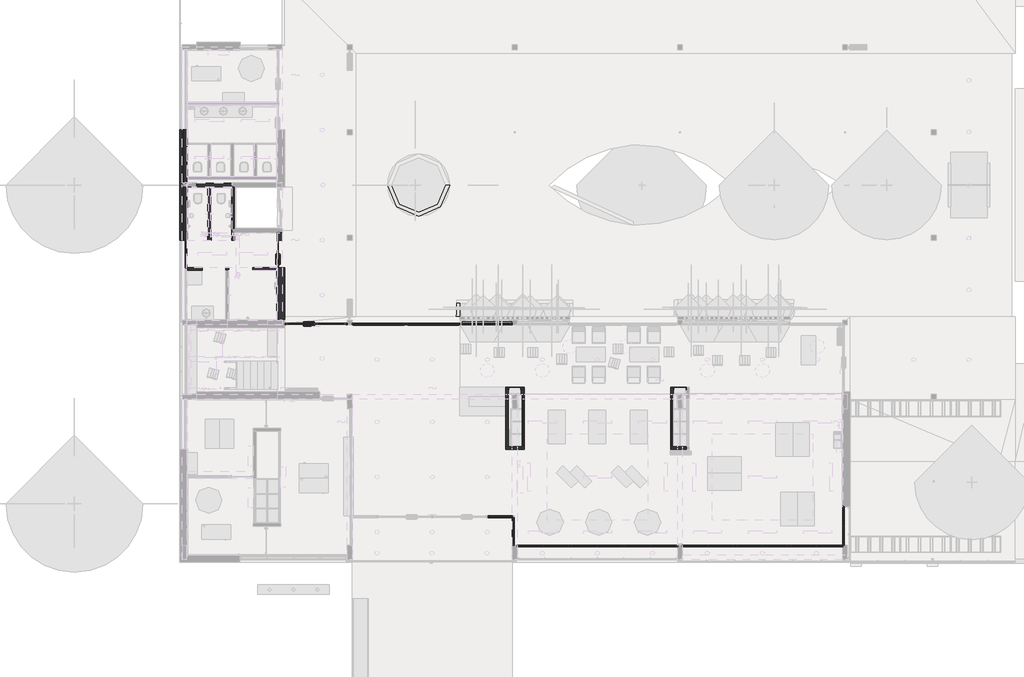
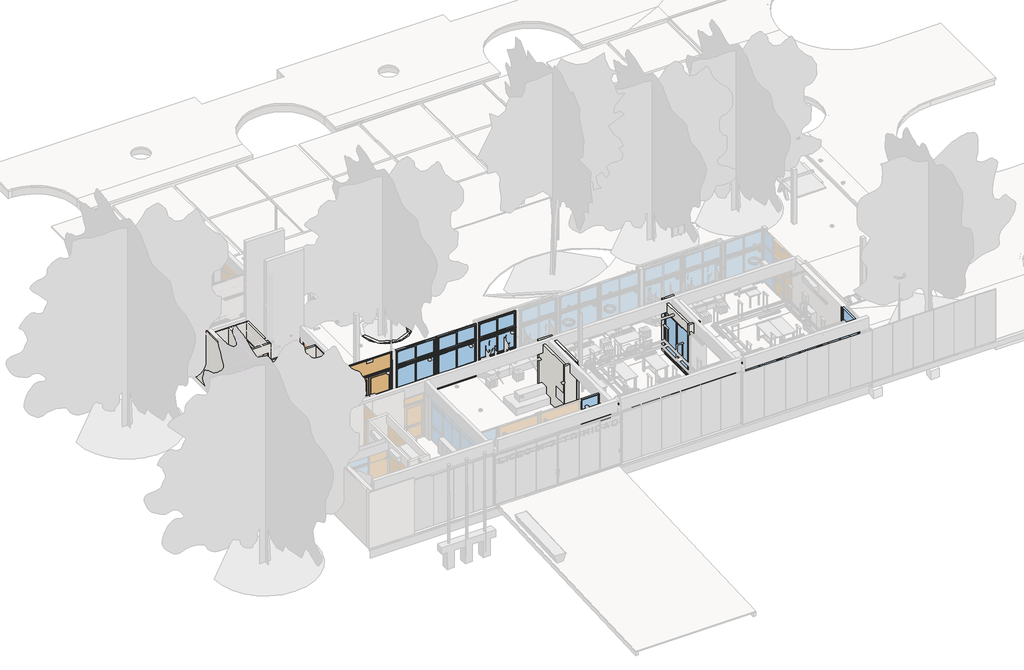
# One storey, part 2 of 22: 21 walls, 10 windows, 2 doors.
"""IFC4 building model written with IfcOpenShell, lengths in millimetres."""

from ifc_helpers import new_model, si_unit, point, frame, frame_2d, origin, origin_with_axes, place, context, project, spatial, polyline, circle_curve, trimmed, segment, composite_curve, outline, extrude, faceted_brep, transform, mapped, element, save
from components import door_7d41e657, door_c8ef6ab0, window_948eace7, window_7d360ee6, window_484ae44f, window_ea4ac452, window_09f8351e, window_a646bc80, a16_ventana_pc_1_hoja_a16_3_ventana_pc_1_hoja_100x310_32f91e1d, a16_ventana_pc_1_hoja_a16_5_ventana_pc_1_hoja_115x260_6798fd23, a16_ventana_pc_1_hoja_a16_5_ventana_pc_1_hoja_115x260_d630623b

model = new_model("IFC4")

# Units and contexts
model_context = context("Model", 3, world=origin())
ifc_project = project(units=[si_unit("LENGTHUNIT", "METRE", prefix="MILLI")], contexts=[model_context])

# Site, building, storey
site = spatial("IfcSite", under=ifc_project)
building = spatial("IfcBuilding", under=site)
storey = spatial("IfcBuildingStorey", under=building, Name="PLanta baja", Elevation=0.0)

# Doors
placement = place(None, origin())
door_shape = door_7d41e657(model_context)
element("IfcDoor", 1, ObjectType="A1 Puerta batiente doble  VF superior : A1.2 Puerta batiente doble  VF superior 260x310", at=placement, inside=storey, context=model_context, shape_type="MappedRepresentation", body=[
    mapped(door_shape, transform((8778.7173693, 10153.2304035, 0.0), x_axis=(1.0, 0.0, 0.0), y_axis=(0.0, 1.0, 0.0), z_axis=(0.0, 0.0, 1.0))),
])
door_2_shape = door_c8ef6ab0(model_context)
element("IfcDoor", 2, ObjectType="A3 Puerta batiente exterior VF superior : A3.3 Puerta batiente simple-exterior 115X260", at=placement, inside=storey, context=model_context, shape_type="MappedRepresentation", body=[
    mapped(door_2_shape, transform((7201.7173694, 13095.2304035, 0.0), x_axis=(0.0, -1.0, 0.0), y_axis=(1.0, 0.0, 0.0), z_axis=(0.0, 0.0, 1.0))),
])

# Walls
element("IfcWall", 3, ObjectType="MURO-EXT/INT-M1c-33cm-hceram210cm-PET-fachada", at=placement, inside=storey, context=model_context, shape_type="SolidModel", body=[
    faceted_brep([(3408.7173694, 15854.9660911, -50.0), (3408.7173694, 15850.0112286, -50.0), (3388.7173693, 15870.2304035, -50.0), (3408.7173694, 15870.2304035, -50.0), (3388.7173694, 13970.2304035, 0.0), (3388.7173694, 13670.2304035, -4.109589), (3388.7173694, 13670.2304035, 0.0), (3388.7173694, 13670.2304035, 2100.0), (3388.7173694, 15870.2304035, 2100.0), (3388.7173694, 15870.2304035, 0.0), (3408.7173694, 13670.2304035, -4.6416726), (3408.7173694, 13670.2304035, 0.0), (3398.7173694, 13670.2304035, 0.0), (3398.7173694, 13670.2304035, 2100.0), (3408.7173694, 15870.2304035, 0.0), (3398.7173694, 15870.2304035, 0.0), (3408.7173694, 13970.2304035, -0.5320836), (3398.7173694, 15870.2304035, 2100.0)], [[[0, 1, 2, 3]], [[4, 5, 6, 7, 8, 9, 2]], [[6, 5, 10, 11, 12, 13, 7]], [[11, 14, 15, 12]], [[1, 0, 3, 14, 11, 10, 16]], [[15, 17, 13, 12]], [[13, 17, 8, 7]], [[2, 9, 8, 17, 15, 14, 3]], [[4, 2, 1, 16]], [[5, 4, 16, 10]]]),
    faceted_brep([(3408.7173694, 18270.2304035, 2310.0), (3408.7173694, 18270.2304035, 2103.3), (3398.8173694, 18270.2304035, 2103.3), (3398.8173694, 18270.2304035, 2100.0), (3388.7173694, 18270.2304035, 2100.0), (3388.7173694, 18270.2304035, 2310.0), (3388.7173694, 18270.2304035, 2600.0), (3388.7173694, 18270.2304035, 3100.0), (3408.7173694, 18270.2304035, 3100.0), (3398.8173694, 16070.2304035, 2100.0), (3388.7173694, 16070.2304035, 2100.0), (3408.7173694, 16070.2304035, 2103.3), (3408.7173694, 16070.2304035, 2310.0), (3408.7173694, 16070.2304035, 3100.0), (3388.7173693, 16070.2304035, 3100.0), (3388.7173694, 16070.2304035, 2600.0), (3388.7173694, 16070.2304035, 2310.0), (3398.8173694, 16070.2304035, 2103.3), (3408.7173694, 16320.2304035, 2103.3), (3408.7173694, 16310.3304035, 2103.3), (3408.7173694, 16320.2304035, 3100.0), (3408.7173694, 16220.2304035, 3100.0)], [[[0, 1, 2, 3, 4, 5, 6, 7, 8]], [[4, 3, 9, 10]], [[11, 12, 13, 14, 15, 16, 10, 9, 17]], [[2, 1, 18, 19, 11, 17]], [[3, 2, 17, 9]], [[1, 0, 8, 20, 21, 13, 12, 11, 19, 18]], [[5, 4, 10, 16, 15, 14, 7, 6]], [[20, 8, 7, 14, 13, 21]]]),
    faceted_brep([(3388.7173694, 16070.2304035, -50.0), (3268.7173694, 16070.2304035, -50.0), (3268.7173694, 18270.2304035, -50.0), (3388.7173694, 18270.2304035, -50.0), (3268.7173694, 18270.2304035, 0.0), (3268.7173694, 18270.2304035, 2310.0), (3268.7173694, 18270.2304035, 2600.0), (3388.7173693, 18270.2304035, 2600.0), (3388.7173694, 18270.2304035, 2310.0), (3388.7173694, 18270.2304035, 0.0), (3388.7173694, 16070.2304035, 0.0), (3388.7173694, 16070.2304035, 2310.0), (3388.7173694, 16070.2304035, 2600.0), (3268.7173694, 16070.2304035, 2600.0), (3268.7173694, 16070.2304035, 2310.0), (3268.7173694, 16070.2304035, 0.0)], [[[0, 1, 2, 3]], [[3, 2, 4, 5, 6, 7, 8, 9]], [[1, 0, 10, 11, 12, 13, 14, 15]], [[0, 3, 9, 8, 7, 12, 11, 10]], [[2, 1, 15, 14, 13, 6, 5, 4]], [[6, 13, 12, 7]]]),
    faceted_brep([(3268.7173694, 16070.2304035, -50.0), (3258.7173694, 16070.2304035, -50.0), (3258.7173694, 18270.2304035, -50.0), (3268.7173694, 18270.2304035, -50.0), (3258.7173694, 18270.2304035, 0.0), (3258.7173694, 18270.2304035, 2310.0), (3258.7173694, 18270.2304035, 2600.0), (3268.7173694, 18270.2304035, 2600.0), (3268.7173694, 18270.2304035, 2310.0), (3268.7173694, 18270.2304035, 0.0), (3268.7173694, 16070.2304035, 0.0), (3268.7173694, 16070.2304035, 2310.0), (3268.7173694, 16070.2304035, 2600.0), (3258.7173694, 16070.2304035, 2600.0), (3258.7173694, 16070.2304035, 2310.0), (3258.7173694, 16070.2304035, 0.0)], [[[0, 1, 2, 3]], [[3, 2, 4, 5, 6, 7, 8, 9]], [[1, 0, 10, 11, 12, 13, 14, 15]], [[0, 3, 9, 8, 7, 12, 11, 10]], [[2, 1, 15, 14, 13, 6, 5, 4]], [[6, 13, 12, 7]]]),
    faceted_brep([(3258.7173694, 16070.2304035, -50.0), (3228.7173694, 16070.2304035, -50.0), (3228.7173694, 18270.2304035, -50.0), (3258.7173694, 18270.2304035, -50.0), (3228.7173694, 18270.2304035, 0.0), (3228.7173694, 18270.2304035, 2310.0), (3228.7173694, 18270.2304035, 2600.0), (3258.7173694, 18270.2304035, 2600.0), (3258.7173694, 18270.2304035, 2310.0), (3258.7173694, 18270.2304035, 0.0), (3258.7173694, 16070.2304035, 0.0), (3258.7173694, 16070.2304035, 2310.0), (3258.7173694, 16070.2304035, 2600.0), (3228.7173694, 16070.2304035, 2600.0), (3228.7173694, 16070.2304035, 2310.0), (3228.7173694, 16070.2304035, 0.0)], [[[0, 1, 2, 3]], [[3, 2, 4, 5, 6, 7, 8, 9]], [[1, 0, 10, 11, 12, 13, 14, 15]], [[0, 3, 9, 8, 7, 12, 11, 10]], [[2, 1, 15, 14, 13, 6, 5, 4]], [[6, 13, 12, 7]]]),
    faceted_brep([(3078.7173694, 13670.2304035, -50.0), (3078.7173694, 18270.2304035, -50.0), (3178.7173694, 18270.2304035, -50.0), (3178.7173694, 13670.2304035, -50.0), (3078.7173694, 18270.2304035, 0.0), (3078.7173694, 18270.2304035, 2310.0), (3078.7173694, 18270.2304035, 3100.0), (3078.7173694, 18270.2304035, 3260.0), (3128.7173694, 18270.2304035, 3260.0), (3128.7173694, 18270.2304035, 3100.0), (3178.7173694, 18270.2304035, 3100.0), (3178.7173694, 18270.2304035, 2310.0), (3178.7173694, 18270.2304035, 0.0), (3078.7173694, 13670.2304035, 0.0), (3078.7173694, 13670.2304035, 2310.0), (3078.7173694, 13670.2304035, 3100.0), (3078.7173694, 13670.2304035, 3260.0), (3078.7173694, 16220.2304035, 3260.0), (3178.7173694, 13670.2304035, 3100.0), (3178.7173694, 13670.2304035, 2310.0), (3178.7173694, 13670.2304035, 0.0), (3128.7173694, 13670.2304035, 3260.0), (3128.7173694, 13670.2304035, 3100.0)], [[[0, 1, 2, 3]], [[2, 1, 4, 5, 6, 7, 8, 9, 10, 11, 12]], [[1, 0, 13, 14, 15, 16, 17, 7, 6, 5, 4]], [[3, 2, 12, 11, 10, 18, 19, 20]], [[17, 16, 21, 8, 7]], [[0, 3, 20, 19, 18, 22, 21, 16, 15, 14, 13]], [[22, 18, 10, 9]], [[21, 22, 9, 8]]]),
    faceted_brep([(3178.7173694, 18270.2304035, -50.0), (3178.7173694, 13670.2304035, -50.0), (3178.7173694, 13670.2304035, 0.0), (3178.7173694, 13670.2304035, 2310.0), (3178.7173694, 13670.2304035, 3100.0), (3178.7173694, 18270.2304035, 3100.0), (3178.7173694, 18270.2304035, 2310.0), (3178.7173694, 18270.2304035, 0.0), (3228.7173694, 18270.2304035, -50.0), (3228.7173694, 16070.2304035, -50.0), (3188.7173694, 16070.2304035, -50.0), (3188.7173694, 15870.2304035, -50.0), (3228.7173694, 15870.2304035, -50.0), (3228.7173694, 13670.2304035, -50.0), (3188.7173693, 18270.2304035, 3100.0), (3188.7173693, 18270.2304035, 2600.0), (3228.7173694, 18270.2304035, 2600.0), (3228.7173694, 18270.2304035, 2310.0), (3228.7173694, 18270.2304035, 0.0), (3228.7173694, 15870.2304035, 0.0), (3228.7173694, 15870.2304035, 2310.0), (3228.7173694, 15870.2304035, 2600.0), (3228.7173694, 13670.2304035, 2600.0), (3228.7173694, 13670.2304035, 2310.0), (3228.7173694, 13670.2304035, 0.0), (3188.7173693, 13670.2304035, 2600.0), (3188.7173693, 13670.2304035, 3100.0), (3188.7173694, 15870.2304035, 0.0), (3188.7173694, 15870.2304035, 2310.0), (3188.7173694, 15870.2304035, 2600.0), (3228.7173694, 16070.2304035, 0.0), (3228.7173694, 16070.2304035, 2310.0), (3228.7173694, 16070.2304035, 2600.0), (3188.7173693, 16070.2304035, 2600.0), (3188.7173693, 16070.2304035, 2310.0), (3188.7173694, 16070.2304035, 0.0)], [[[0, 1, 2, 3, 4, 5, 6, 7]], [[1, 0, 8, 9, 10, 11, 12, 13]], [[0, 7, 6, 5, 14, 15, 16, 17, 18, 8]], [[13, 12, 19, 20, 21, 22, 23, 24]], [[2, 1, 13, 24, 23, 22, 25, 26, 4, 3]], [[19, 12, 11, 27, 28, 29, 21, 20]], [[10, 9, 30, 31, 32, 33, 34, 35]], [[11, 10, 35, 34, 33, 15, 14, 26, 25, 29, 28, 27]], [[9, 8, 18, 17, 16, 32, 31, 30]], [[25, 22, 21, 29]], [[16, 15, 33, 32]], [[5, 4, 26, 14]]]),
    faceted_brep([(3408.7173694, 14990.7304035, 900.0), (3398.7173694, 14990.7304035, 900.0), (3398.7173694, 14390.7304035, 900.0), (3408.7173694, 14390.7304035, 900.0), (3408.7173694, 14990.7304035, 2100.0), (3398.7173694, 14990.7304035, 2100.0), (3398.7173694, 14390.7304035, 2100.0), (3408.7173694, 14390.7304035, 2100.0), (3408.7173694, 15850.2304035, 2100.0), (3408.7173694, 15860.1304035, 2100.0), (3408.7173694, 15870.2304035, 2100.0), (3398.7173694, 15870.2304035, 2100.0), (3398.7173694, 13670.2304035, 2100.0), (3408.7173694, 13670.2304035, 2100.0), (3398.7173694, 15870.2304035, 0.0), (3398.7173694, 13670.2304035, 0.0), (3408.7173694, 13670.2304035, 0.0), (3408.7173694, 15870.2304035, 0.0)], [[[0, 1, 2, 3]], [[1, 0, 4, 5]], [[3, 2, 6, 7]], [[8, 9, 10, 11, 5, 4]], [[12, 13, 7, 6]], [[11, 14, 15, 12, 6, 2, 1, 5]], [[9, 8, 4, 0, 3, 7, 13, 16, 17, 10]], [[15, 14, 17, 16]], [[11, 10, 17, 14]], [[13, 12, 15, 16]]]),
    extrude(outline(polyline([(3408.7173694, 14390.7304035), (3398.7173694, 14390.7304035), (3398.7173694, 14990.7304035), (3408.7173694, 14990.7304035), (3408.7173694, 14390.7304035)])), frame((0.0, 0.0, 900.0), z_axis=(0.0, 0.0, 1.0), x_axis=(1.0, 0.0, 0.0)), (0.0, 0.0, 1.0), 1200.0),
    faceted_brep([(3398.7173694, 16070.2304035, 0.0), (3408.7173694, 16070.2304035, 0.0), (3408.7173694, 16310.2304035, 0.0), (3398.7173694, 16310.2304035, 0.0), (3398.7173694, 18270.2304035, 0.0), (3398.7173694, 18270.2304035, -50.0), (3388.7173694, 18270.2304035, -50.0), (3388.7173694, 18270.2304035, 0.0), (3388.7173694, 18270.2304035, 2100.0), (3398.7173694, 18270.2304035, 2100.0), (3398.7173694, 16310.2304035, -50.0), (3408.7173694, 16310.2304035, -50.0), (3408.7173694, 16220.2304035, -50.0), (3408.7173694, 16070.2304035, -50.0), (3398.7173693, 16070.2304035, -50.0), (3388.7173694, 16070.2304035, -50.0), (3388.7173694, 16070.2304035, 0.0), (3388.7173694, 16070.2304035, 2100.0), (3398.7173694, 16070.2304035, 2100.0)], [[[0, 1, 2, 3]], [[4, 5, 6, 7, 8, 9]], [[6, 5, 10, 11, 12, 13, 14, 15]], [[1, 13, 12, 11, 2]], [[7, 6, 15, 16, 17, 8]], [[5, 4, 9, 18, 0, 3, 10]], [[9, 8, 17, 18]], [[14, 13, 1, 0, 18, 17, 16, 15]], [[2, 11, 10, 3]]]),
    faceted_brep([(3408.7173694, 18270.2304035, 2100.0), (3408.7173694, 18270.2304035, 0.0), (3398.7173694, 18270.2304035, 0.0), (3398.7173694, 18270.2304035, 2100.0), (3408.7173694, 16320.2304035, 2100.0), (3408.7173694, 16310.3304035, 2100.0), (3408.7173694, 16070.2304035, 2100.0), (3408.7173694, 16070.2304035, 0.0), (3408.7173694, 16310.2304035, 0.0), (3408.7173694, 16320.2304035, 0.0), (3398.7173694, 16070.2304035, 2100.0), (3398.7173694, 16310.2304035, 0.0), (3398.7173694, 16070.2304035, 0.0)], [[[0, 1, 2, 3]], [[1, 0, 4, 5, 6, 7, 8, 9]], [[10, 3, 2, 11, 12]], [[12, 11, 2, 1, 9, 8, 7]], [[3, 10, 6, 5, 4, 0]], [[7, 6, 10, 12]]]),
    faceted_brep([(3388.7173694, 13670.2304035, 2100.0), (3388.7173694, 15870.2304035, 2100.0), (3398.8173694, 15870.2304035, 2100.0), (3398.8173694, 13670.2304035, 2100.0), (3388.7173694, 13670.2304035, 2310.0), (3388.7173694, 13670.2304035, 2600.0), (3388.7173694, 13670.2304035, 3100.0), (3388.7173694, 15870.2304035, 3100.0), (3388.7173694, 15870.2304035, 2600.0), (3388.7173694, 15870.2304035, 2310.0), (3408.7173694, 13670.2304035, 2103.3), (3408.7173694, 15850.2304035, 2103.3), (3408.7173694, 15860.1304035, 2103.3), (3408.7173694, 15870.2304035, 2103.3), (3408.7173694, 15870.2304035, 2310.0), (3408.7173694, 15870.2304035, 3100.0), (3408.7173694, 15850.2304035, 3100.0), (3408.7173694, 13670.2304035, 3100.0), (3408.7173694, 13670.2304035, 2310.0), (3398.8173694, 13670.2304035, 2103.3), (3398.8173694, 15870.2304035, 2103.3)], [[[0, 1, 2, 3]], [[1, 0, 4, 5, 6, 7, 8, 9]], [[10, 11, 12, 13, 14, 15, 16, 17, 18]], [[0, 3, 19, 10, 18, 17, 6, 5, 4]], [[3, 2, 20, 19]], [[2, 1, 9, 8, 7, 15, 14, 13, 20]], [[11, 10, 19, 20, 13, 12]], [[7, 6, 17, 16, 15]]]),
    faceted_brep([(3388.7173694, 13970.2304035, -50.0), (3388.7173694, 15870.2304035, -50.0), (3388.7173694, 15870.2304035, 0.0), (3388.7173694, 15870.2304035, 2310.0), (3388.7173694, 15870.2304035, 2600.0), (3388.7173694, 13670.2304035, 2600.0), (3388.7173694, 13670.2304035, 2310.0), (3388.7173694, 13670.2304035, 0.0), (3388.7173694, 13670.2304035, -4.109589), (3388.7173694, 13670.2304035, -50.0), (3268.7173694, 15870.2304035, -50.0), (3268.7173694, 13670.2304035, -50.0), (3268.7173694, 13670.2304035, 0.0), (3268.7173694, 13670.2304035, 2310.0), (3268.7173694, 13670.2304035, 2600.0), (3268.7173694, 15870.2304035, 2600.0), (3268.7173694, 15870.2304035, 2310.0), (3268.7173694, 15870.2304035, 0.0)], [[[0, 1, 2, 3, 4, 5, 6, 7, 8, 9]], [[10, 11, 12, 13, 14, 15, 16, 17]], [[8, 7, 6, 5, 14, 13, 12, 11, 9]], [[1, 0, 9, 11, 10]], [[2, 1, 10, 17, 16, 15, 4, 3]], [[5, 4, 15, 14]]]),
    faceted_brep([(3258.7173694, 15870.2304035, -50.0), (3258.7173694, 13670.2304035, -50.0), (3258.7173694, 13670.2304035, 0.0), (3258.7173694, 13670.2304035, 2310.0), (3258.7173694, 13670.2304035, 2600.0), (3258.7173694, 15870.2304035, 2600.0), (3258.7173694, 15870.2304035, 2310.0), (3258.7173694, 15870.2304035, 0.0), (3268.7173694, 13670.2304035, -50.0), (3268.7173694, 15870.2304035, -50.0), (3268.7173694, 15870.2304035, 0.0), (3268.7173694, 15870.2304035, 2310.0), (3268.7173694, 15870.2304035, 2600.0), (3268.7173694, 13670.2304035, 2600.0), (3268.7173694, 13670.2304035, 2310.0), (3268.7173694, 13670.2304035, 0.0)], [[[0, 1, 2, 3, 4, 5, 6, 7]], [[8, 9, 10, 11, 12, 13, 14, 15]], [[2, 1, 8, 15, 14, 13, 4, 3]], [[1, 0, 9, 8]], [[0, 7, 6, 5, 12, 11, 10, 9]], [[5, 4, 13, 12]]]),
    faceted_brep([(3228.7173694, 15870.2304035, -50.0), (3228.7173694, 13670.2304035, -50.0), (3228.7173694, 13670.2304035, 0.0), (3228.7173694, 13670.2304035, 2310.0), (3228.7173694, 13670.2304035, 2600.0), (3228.7173694, 15870.2304035, 2600.0), (3228.7173694, 15870.2304035, 2310.0), (3228.7173694, 15870.2304035, 0.0), (3258.7173694, 13670.2304035, -50.0), (3258.7173694, 15870.2304035, -50.0), (3258.7173694, 15870.2304035, 0.0), (3258.7173694, 15870.2304035, 2310.0), (3258.7173694, 15870.2304035, 2600.0), (3258.7173694, 13670.2304035, 2600.0), (3258.7173694, 13670.2304035, 2310.0), (3258.7173694, 13670.2304035, 0.0)], [[[0, 1, 2, 3, 4, 5, 6, 7]], [[8, 9, 10, 11, 12, 13, 14, 15]], [[2, 1, 8, 15, 14, 13, 4, 3]], [[1, 0, 9, 8]], [[0, 7, 6, 5, 12, 11, 10, 9]], [[5, 4, 13, 12]]]),
])
element("IfcWall", 4, ObjectType="MURO-EXT/INT-M1c-33cm-hceram210cm-PET-circulacion", at=placement, inside=storey, context=model_context, shape_type="Brep", body=[
    faceted_brep([(7478.7173693, 12520.2304035, 3100.0), (7478.7173693, 10340.2304035, 3100.0), (7478.7173693, 10340.2304035, -50.0), (7478.7173693, 10340.2304035, -80.0), (7478.7173693, 10470.2304035, -80.0), (7478.7173693, 12520.2304035, -80.0), (7478.7173693, 12520.2304035, -50.0), (7478.7173693, 12519.7951177, -2.8440367), (7478.7173693, 12520.2304035, -2.8440367), (7148.7173693, 10340.2304035, 3100.0), (7148.7173693, 12520.2304035, 3100.0), (7148.7173693, 12520.2304035, 2103.3), (7148.7173693, 10340.2304035, 2103.3), (7148.7173693, 10340.2304035, 2100.0), (7148.7173693, 12520.2304035, 2100.0), (7148.7173693, 12520.2304035, -20.3891645), (7148.7173693, 10358.6394096, -50.0), (7148.7173693, 10340.2304035, -50.0), (7168.7173694, 10340.2304035, -80.0), (7168.7173694, 12520.2304035, -80.0), (7168.7173693, 12520.2304035, 3100.0), (7168.7173693, 12520.2304035, 2600.0), (7368.7173693, 12520.2304035, 2600.0), (7368.7173693, 12520.2304035, 3100.0), (7168.7173693, 12520.2304035, 0.0), (7168.7173693, 12520.2304035, -19.8630137), (7158.6173693, 12520.2304035, 2100.0), (7158.6173693, 12520.2304035, 2103.3), (7168.7173694, 12520.2304035, -50.0), (7368.7173693, 10340.2304035, 3100.0), (7168.7173693, 10340.2304035, 3100.0), (7368.7173693, 10340.2304035, 2600.0), (7168.7173693, 10340.2304035, 2600.0), (7158.6173693, 10340.2304035, 2103.3), (7158.6173693, 10340.2304035, 2100.0), (7158.3031452, 10340.2304035, -50.0), (7168.7173694, 10340.2304035, -49.7260274), (7168.7173694, 10340.2304035, -50.0), (7168.7173693, 12519.768865, 0.0), (7168.7173693, 12519.9522511, -19.866824)], [[[0, 1, 2, 3, 4, 5, 6, 7, 8]], [[9, 10, 11, 12]], [[13, 14, 15, 16, 17]], [[4, 3, 18, 19, 5]], [[11, 10, 20, 21, 22, 23, 0, 8, 24, 25, 15, 14, 26, 27]], [[6, 5, 19, 28]], [[1, 0, 23, 29]], [[10, 9, 30, 20]], [[3, 2, 1, 29, 31, 32, 30, 9, 12, 33, 34, 13, 17, 35, 36, 37, 18]], [[14, 13, 34, 26]], [[27, 33, 12, 11]], [[33, 27, 26, 34]], [[32, 21, 20, 30]], [[21, 32, 31, 22]], [[22, 31, 29, 23]], [[24, 38, 39, 25]], [[7, 38, 24, 8]], [[38, 7, 6, 28, 39]], [[36, 39, 28, 19, 18, 37]], [[39, 36, 35, 16, 15, 25]], [[16, 35, 17]]]),
])
element("IfcWall", 5, ObjectType="MURO-INT/INT-M22c-12cm-hceram210cm-PET", at=placement, inside=storey, context=model_context, shape_type="Brep", body=[
    faceted_brep([(4387.5203708, 15850.2304035, 3100.0), (4387.5203708, 13780.2304035, 3100.0), (4387.5203708, 13780.2304035, 2103.3), (4387.5203708, 15850.2304035, 2103.3), (4387.5203708, 15850.2304035, 2100.0), (4387.5203708, 13780.2304035, 2100.0), (4387.5203708, 13780.2304035, 0.0), (4387.5203708, 15850.2304035, 0.0), (4267.5203708, 13780.2304035, 3100.0), (4267.5203708, 15850.2304035, 3100.0), (4267.5203708, 15850.2304035, 2103.3), (4267.5203708, 13865.2304035, 2103.3), (4267.5203708, 13865.2304035, 2100.0), (4267.5203708, 15850.2304035, 2100.0), (4267.5203708, 15850.2304035, 0.0), (4267.5203708, 13780.2304035, 0.0), (4377.6203708, 13780.2304035, 2100.0), (4377.6203708, 13780.2304035, 2103.3), (4377.6203708, 15850.2304035, 2103.3), (4377.6203708, 15850.2304035, 2100.0), (4277.4203708, 15850.2304035, 2100.0), (4277.4203708, 15850.2304035, 2103.3), (4277.4203708, 13865.2304035, 2103.3), (4277.4203708, 13865.2304035, 2100.0)], [[[0, 1, 2, 3]], [[4, 5, 6, 7]], [[8, 9, 10, 11, 12, 13, 14, 15]], [[1, 0, 9, 8]], [[1, 8, 15, 6, 5, 16, 17, 2]], [[9, 0, 3, 18, 19, 4, 7, 14, 13, 20, 21, 10]], [[12, 11, 22, 23]], [[20, 13, 12, 23]], [[16, 5, 4, 19]], [[23, 22, 21, 20]], [[22, 11, 10, 21]], [[17, 18, 3, 2]], [[16, 19, 18, 17]], [[7, 6, 15, 14]]]),
])
element("IfcWall", 6, ObjectType="MURO-Aloja puertas aluminio-6.6cm-PET", at=placement, inside=storey, context=model_context, shape_type="SweptSolid", body=[
    extrude(outline(polyline([(10088.7173693, 10186.2304035), (10088.7173693, 10120.2304035), (10078.7173693, 10120.2304035), (10078.7173693, 10186.2304035), (10088.7173693, 10186.2304035)])), origin_with_axes(), (0.0, 0.0, 1.0), 2650.0),
])
element("IfcWall", 7, ObjectType="MURO-Aloja ventanas aluminio-7.5cm-PET", at=placement, inside=storey, context=model_context, shape_type="Brep", body=[
    faceted_brep([(15976.2173693, 2070.2304035, 3000.0), (15976.2173693, 2070.2304035, 0.0), (15982.4673694, 2070.2304035, 0.0), (15982.4673694, 2070.2304035, 3000.0), (15976.2173693, 2145.2304035, 0.0), (15976.2173693, 2145.2304035, 3000.0), (15982.4673694, 2145.2304035, 3000.0), (15982.4673694, 2145.2304035, 0.0)], [[[0, 1, 2, 3]], [[4, 5, 6, 7]], [[1, 4, 7, 2]], [[5, 0, 3, 6]], [[1, 0, 5, 4]], [[3, 2, 7, 6]]]),
    faceted_brep([(16988.7173694, 2070.2304035, 0.0), (16988.7173694, 2070.2304035, 2610.0), (16988.7173694, 2070.2304035, 3000.0), (16982.4673694, 2070.2304035, 3000.0), (16982.4673694, 2070.2304035, 0.0), (16988.7173694, 2145.2304035, 3000.0), (16988.7173694, 2145.2304035, 2610.0), (16988.7173694, 2145.2304035, 0.0), (16982.4673694, 2145.2304035, 0.0), (16982.4673694, 2145.2304035, 3000.0)], [[[0, 1, 2, 3, 4]], [[5, 6, 7, 8, 9]], [[7, 0, 4, 8]], [[2, 1, 0, 7, 6, 5]], [[2, 5, 9, 3]], [[4, 3, 9, 8]]]),
])
element("IfcWall", 8, ObjectType="MURO-INT/INT-M22b-11.5cm-hceram210cm-PET", at=placement, inside=storey, context=model_context, shape_type="Brep", body=[
    faceted_brep([(7148.7173693, 12405.2304035, 3100.0), (5133.7173694, 12405.2304035, 3100.0), (5133.7173694, 12405.2304035, 2600.0), (6133.7173694, 12405.2304035, 2600.0), (6133.7173694, 12405.2304035, 2103.3), (7148.7173693, 12405.2304035, 2103.3), (6133.7173694, 12405.2304035, 2100.0), (6133.7173694, 12405.2304035, 0.0), (7148.7173693, 12405.2304035, 0.0), (7148.7173693, 12405.2304035, 2100.0), (5133.7173694, 12520.2304035, 3100.0), (7148.7173693, 12520.2304035, 3100.0), (7148.7173693, 12520.2304035, 0.0), (6133.7173694, 12520.2304035, 0.0), (6133.7173694, 12520.2304035, 2600.0), (5133.7173694, 12520.2304035, 2600.0), (7148.7173693, 12415.1304035, 2103.3), (7148.7173693, 12415.1304035, 2100.0), (5133.7173694, 12410.2304035, 3100.0), (6133.7173694, 12415.1304035, 2100.0), (6133.7173694, 12415.1304035, 2103.3)], [[[0, 1, 2, 3, 4, 5]], [[6, 7, 8, 9]], [[10, 11, 12, 13, 14, 15]], [[11, 0, 5, 16, 17, 9, 8, 12]], [[1, 0, 11, 10, 18]], [[3, 14, 13, 7, 6, 19, 20, 4]], [[14, 3, 2, 15]], [[1, 18, 10, 15, 2]], [[20, 16, 5, 4]], [[16, 20, 19, 17]], [[17, 19, 6, 9]], [[8, 7, 13, 12]]]),
])
element("IfcWall", 9, ObjectType="MURO-INT/INT-M23d-19cm-hceram210cm-PET", at=placement, inside=storey, context=model_context, shape_type="Brep", body=[
    faceted_brep([(5268.7173693, 15850.2304035, -300.0), (5268.7173693, 15850.2304035, 2100.0), (4387.5203708, 15850.2304035, 2100.0), (4387.5203708, 15850.2304035, 2103.3), (5268.7173693, 15850.2304035, 2103.3), (5268.7173693, 15850.2304035, 3100.0), (4387.5203708, 15850.2304035, 3100.0), (4267.5203708, 15850.2304035, 3100.0), (3408.7173694, 15850.2304035, 3100.0), (3408.7173694, 15850.2304035, 2103.3), (4267.5203708, 15850.2304035, 2103.3), (4277.4203708, 15850.2304035, 2103.3), (4277.4203708, 15850.2304035, 2100.0), (4267.5203708, 15850.2304035, 2100.0), (3408.7173694, 15850.2304035, 2100.0), (3408.7173694, 15850.2304035, 0.0), (4267.5203708, 15850.2304035, 0.0), (4387.5203708, 15850.2304035, 0.0), (5258.7173694, 15850.2304035, 0.0), (5258.7173694, 15850.2304035, -50.0), (3388.7173693, 15850.2304035, -50.0), (3388.7173693, 15850.2304035, -300.0), (5268.7173693, 16040.2304035, -300.0), (3788.7173694, 16040.2304035, -300.0), (3788.7173694, 16040.2304035, 2600.0), (5268.7173693, 16040.2304035, 2600.0), (3388.7173693, 15870.2304035, -300.0), (3788.7173694, 15870.2304035, -300.0), (5268.7173693, 15870.2304035, 2600.0), (5268.7173693, 15870.2304035, 3100.0), (5268.7173693, 15860.1304035, 2103.3), (5268.7173693, 15860.1304035, 2100.0), (3408.7173694, 15870.2304035, 3100.0), (4277.4203708, 15860.1304035, 2100.0), (3408.7173694, 15860.1304035, 2100.0), (4387.5203708, 15860.1304035, 2100.0), (4387.5203708, 15860.1304035, 2103.3), (4277.4203708, 15860.1304035, 2103.3), (3408.7173694, 15860.1304035, 2103.3), (3788.7173694, 15870.2304035, 2600.0), (3388.7173693, 15870.2304035, -50.0), (3408.7173694, 15870.2304035, -50.0), (3408.7173694, 15870.2304035, 2100.0), (3408.7173694, 15870.2304035, 2103.3), (3408.7173694, 15854.9660911, -50.0), (3408.7173694, 15854.9660911, 0.0), (5258.7173694, 15854.9660911, -50.0), (5258.7173694, 15854.9660911, 0.0)], [[[0, 1, 2, 3, 4, 5, 6, 7, 8, 9, 10, 11, 12, 13, 14, 15, 16, 17, 18, 19, 20, 21]], [[22, 23, 24, 25]], [[22, 0, 21, 26, 27, 23]], [[0, 22, 25, 28, 29, 5, 4, 30, 31, 1]], [[8, 7, 6, 5, 29, 32]], [[33, 34, 14, 13, 12]], [[3, 2, 35, 36]], [[1, 31, 35, 2]], [[37, 38, 34, 33]], [[37, 33, 12, 11]], [[36, 30, 4, 3]], [[36, 35, 31, 30]], [[38, 37, 11, 10, 9]], [[39, 27, 26, 40, 41, 42, 43, 32, 29, 28]], [[27, 39, 24, 23]], [[9, 8, 32, 43, 42, 41, 44, 45, 15, 14, 34, 38]], [[19, 46, 44, 41, 40, 20]], [[39, 28, 25, 24]], [[21, 20, 40, 26]], [[45, 47, 18, 17, 16, 15]], [[44, 46, 47, 45]], [[47, 46, 19, 18]]]),
])
element("IfcWall", 10, ObjectType="MURO-INT/INT-M22b-11.5cm-hceram210cm-PET", at=placement, inside=storey, context=model_context, shape_type="Brep", body=[
    faceted_brep([(5250.9489127, 15870.2304035, -80.0), (5250.9489127, 13780.2304035, -80.0), (5250.9489127, 13780.2304035, -50.0), (5250.9489127, 15854.9660911, -50.0), (5250.9489127, 15854.9660911, 0.0), (5250.9489127, 13780.2304035, 0.0), (5250.9489127, 13780.2304035, 2600.0), (5250.9489127, 13780.2304035, 3100.0), (5250.9489127, 15870.2304035, 3100.0), (5250.9489127, 15870.2304035, 2103.3), (5250.9489127, 13950.2304035, 2103.3), (5250.9489127, 13950.2304035, 2100.0), (5250.9489127, 15870.2304035, 2100.0), (5365.9489127, 15870.2304035, -80.0), (5365.9489127, 15870.2304035, 3100.0), (5365.9489127, 14170.2304035, 3100.0), (5365.9489127, 14170.2304035, -80.0), (5365.9489127, 13780.2304035, 1.0), (5365.9489127, 13780.2304035, 0.0), (5365.9489127, 13780.2304035, -80.0), (5365.9489127, 13970.2304035, -80.0), (5365.9489127, 13970.2304035, 3100.0), (5365.9489127, 13780.2304035, 3100.0), (5365.9489127, 13780.2304035, 71.0), (5268.7173694, 14170.2304035, -80.0), (5268.7173694, 13970.2304035, -80.0), (5363.7173693, 13970.2304035, 3100.0), (5268.7173694, 13970.2304035, 3100.0), (5268.7173694, 14170.2304035, 3100.0), (5363.7173693, 14170.2304035, 3100.0), (5260.8489127, 15870.2304035, 2100.0), (5260.8489127, 15870.2304035, 2103.3), (5258.7173694, 13780.2304035, 0.0), (5258.7173694, 13780.2304035, -50.0), (5260.8489127, 13950.2304035, 2103.3), (5260.8489127, 13950.2304035, 2100.0), (5258.7173694, 15854.9660911, -50.0), (5258.7173694, 15854.9660911, 0.0)], [[[0, 1, 2, 3, 4, 5, 6, 7, 8, 9, 10, 11, 12]], [[13, 14, 15, 16]], [[17, 18, 19, 20, 21, 22, 23]], [[1, 0, 13, 16, 24, 25, 20, 19]], [[8, 7, 22, 21, 26, 27, 28, 29, 15, 14]], [[14, 13, 0, 12, 30, 31, 9, 8]], [[1, 19, 18, 17, 23, 22, 7, 6, 5, 32, 33, 2]], [[11, 10, 34, 35]], [[30, 12, 11, 35]], [[31, 34, 10, 9]], [[35, 34, 31, 30]], [[28, 24, 16, 15, 29]], [[24, 28, 27, 25]], [[25, 27, 26, 21, 20]], [[33, 36, 3, 2]], [[4, 37, 32, 5]], [[36, 37, 4, 3]], [[37, 36, 33, 32]]]),
])
element("IfcWall", 11, ObjectType="CORD-C2-Cordoneta adoquines-15x20cm-PET", at=placement, inside=storey, context=model_context, shape_type="SweptSolid", body=[
    extrude(outline(composite_curve([segment(polyline([(14213.2449174, 15970.2304035), (14363.2449174, 15970.2304035)]), True, "CONTINUOUS"), segment(trimmed(circle_curve(frame_2d((13066.2072458, 15970.2304035)), 1297.0376717), [point((14363.2449174, 15970.2304035))], [point((11769.1695741, 15970.2304035))], False, "CARTESIAN"), True, "CONTINUOUS"), segment(polyline([(11769.1695741, 15970.2304035), (11919.1695741, 15970.2304035)]), True, "CONTINUOUS"), segment(trimmed(circle_curve(frame_2d((13066.2072458, 15970.2304035)), 1147.0376717), [point((11919.1695741, 15970.2304035))], [point((14213.2449174, 15970.2304035))], True, "CARTESIAN"), True, "CONTINUOUS")], self_intersect=False)), frame((0.0, 0.0, -300.0), z_axis=(0.0, 0.0, 1.0), x_axis=(1.0, 0.0, 0.0)), (0.0, 0.0, 1.0), 210.0),
])
element("IfcWall", 12, ObjectType="CORD-C2-Cordoneta adoquines-15x20cm-PET", at=placement, inside=storey, context=model_context, shape_type="SweptSolid", body=[
    extrude(outline(polyline([(11030.2304035, -300.0), (10470.2304035, -300.0), (10470.2304035, -90.0), (11030.2304035, -94.1085978), (11030.2304035, -300.0)])), frame((14638.7173693, 0.0, 0.0), z_axis=(1.0, 0.0, 0.0), x_axis=(0.0, 1.0, 0.0)), (0.0, 0.0, 1.0), 150.0),
])
element("IfcWall", 13, ObjectType="TABI-INT/INT-M30i-11.5cm-PET", at=placement, inside=storey, context=model_context, shape_type="Brep", body=[
    faceted_brep([(17358.7173693, 5033.5637368, 0.0), (16818.0966893, 5033.5637368, 0.0), (16703.0966893, 5033.5637368, 0.0), (16703.0966893, 5033.5637368, 50.0), (16703.0966893, 5033.5637368, 3100.0), (16818.0966893, 5033.5637368, 3100.0), (16988.7173694, 5033.5637368, 3100.0), (16988.7173694, 5033.5637368, 2600.0), (17188.7173694, 5033.5637368, 2600.0), (17188.7173694, 5033.5637368, 3100.0), (17358.7173693, 5033.5637368, 3100.0), (17358.7173693, 5033.5637368, 2600.0), (16703.0966893, 4918.5637368, 0.0), (17358.7173693, 4918.5637368, 0.0), (17358.7173693, 4918.5637368, 50.0), (17358.7173693, 4918.5637368, 3100.0), (17188.7173694, 4918.5637368, 3100.0), (17188.7173694, 4918.5637368, 2600.0), (16988.7173694, 4918.5637368, 2600.0), (16988.7173694, 4918.5637368, 3100.0), (16703.0966893, 4918.5637368, 3100.0), (16703.0966893, 4918.5637368, 50.0)], [[[0, 1, 2, 3, 4, 5, 6, 7, 8, 9, 10, 11]], [[12, 13, 14, 15, 16, 17, 18, 19, 20, 21]], [[2, 1, 0, 13, 12]], [[15, 10, 9, 16]], [[4, 20, 19, 6, 5]], [[0, 11, 10, 15, 14, 13]], [[2, 12, 21, 20, 4, 3]], [[18, 7, 6, 19]], [[7, 18, 17, 8]], [[8, 17, 16, 9]]]),
])
element("IfcWall", 14, ObjectType="TABI-INT/INT-M30i-11.5cm-PET", at=placement, inside=storey, context=model_context, shape_type="Brep", body=[
    faceted_brep([(16818.0966893, 5033.5637368, 0.0), (16818.0966893, 7407.2304035, 0.0), (16818.0966893, 7407.2304035, 3100.0), (16818.0966893, 7220.2304035, 3100.0), (16818.0966893, 7220.2304035, 2600.0), (16818.0966893, 7020.2304035, 2600.0), (16818.0966893, 7020.2304035, 3100.0), (16818.0966893, 5033.5637368, 3100.0), (16703.0966893, 7407.2304035, 0.0), (16703.0966893, 5033.5637368, 0.0), (16703.0966893, 5033.5637368, 50.0), (16703.0966893, 5033.5637368, 3100.0), (16703.0966893, 7020.2304035, 3100.0), (16703.0966893, 7020.2304035, 2600.0), (16703.0966893, 7220.2304035, 2600.0), (16703.0966893, 7220.2304035, 3100.0), (16703.0966893, 7407.2304035, 3100.0), (16703.0966893, 7407.2304035, 50.0)], [[[0, 1, 2, 3, 4, 5, 6, 7]], [[8, 9, 10, 11, 12, 13, 14, 15, 16, 17]], [[1, 0, 9, 8]], [[11, 7, 6, 12]], [[2, 16, 15, 3]], [[0, 7, 11, 10, 9]], [[2, 1, 8, 17, 16]], [[5, 13, 12, 6]], [[13, 5, 4, 14]], [[14, 4, 3, 15]]]),
])
element("IfcWall", 15, ObjectType="TABI-INT/INT-M30i-11.5cm-PET", at=placement, inside=storey, context=model_context, shape_type="Brep", body=[
    faceted_brep([(17358.7173693, 7407.2304035, 0.0), (17358.7173693, 7220.5637368, 0.0), (17358.7173693, 7220.5637368, 2600.0), (17358.7173693, 7220.2304035, 2600.0), (17358.7173693, 7220.2304035, 3100.0), (17358.7173693, 7407.2304035, 3100.0), (17473.7173693, 7220.5637368, 0.0), (17473.7173693, 7407.2304035, 0.0), (17473.7173693, 7407.2304035, 50.0), (17473.7173693, 7407.2304035, 3100.0), (17473.7173693, 7220.2304035, 3100.0), (17473.7173693, 7220.2304035, 2600.0), (17473.7173693, 7220.5637368, 2600.0), (17473.7173693, 7220.5637368, 50.0)], [[[0, 1, 2, 3, 4, 5]], [[6, 7, 8, 9, 10, 11, 12, 13]], [[1, 0, 7, 6]], [[9, 5, 4, 10]], [[2, 12, 11, 3]], [[12, 2, 1, 6, 13]], [[0, 5, 9, 8, 7]], [[4, 3, 11, 10]]]),
    faceted_brep([(17358.7173693, 5033.5637368, 0.0), (17358.7173693, 4918.5637368, 0.0), (17358.7173693, 4918.5637368, 50.0), (17358.7173693, 4918.5637368, 3100.0), (17358.7173693, 5033.5637368, 3100.0), (17358.7173693, 7020.2304035, 3100.0), (17358.7173693, 7020.2304035, 2600.0), (17358.7173693, 5033.5637368, 2600.0), (17473.7173693, 4918.5637368, 0.0), (17473.7173693, 5033.5637368, 0.0), (17473.7173693, 5033.5637368, 50.0), (17473.7173693, 5033.5637368, 2600.0), (17473.7173693, 7020.2304035, 2600.0), (17473.7173693, 7020.2304035, 3100.0), (17473.7173693, 4918.5637368, 3100.0), (17473.7173693, 4918.5637368, 50.0)], [[[0, 1, 2, 3, 4, 5, 6, 7]], [[8, 9, 10, 11, 12, 13, 14, 15]], [[8, 1, 0, 9]], [[3, 14, 13, 5, 4]], [[1, 8, 15, 14, 3, 2]], [[7, 11, 10, 9, 0]], [[11, 7, 6, 12]], [[6, 5, 13, 12]]]),
])
element("IfcWall", 16, ObjectType="TABI-INT/INT-M30i-11.5cm-PET", at=placement, inside=storey, context=model_context, shape_type="Brep", body=[
    faceted_brep([(24258.7173693, 5033.5637368, 0.0), (23603.0966893, 5033.5637368, 0.0), (23603.0966893, 5033.5637368, 2600.0), (23603.0966893, 5033.5637368, 3100.0), (23718.0966893, 5033.5637368, 3100.0), (23888.7173694, 5033.5637368, 3100.0), (23888.7173694, 5033.5637368, 2600.0), (24088.7173694, 5033.5637368, 2600.0), (24088.7173694, 5033.5637368, 3100.0), (24258.7173693, 5033.5637368, 3100.0), (24258.7173693, 5033.5637368, 2600.0), (23603.0966893, 4918.5637368, 0.0), (24258.7173693, 4918.5637368, 0.0), (24258.7173693, 4918.5637368, 50.0), (24258.7173693, 4918.5637368, 3100.0), (24088.7173694, 4918.5637368, 3100.0), (24088.7173694, 4918.5637368, 2600.0), (23888.7173694, 4918.5637368, 2600.0), (23888.7173694, 4918.5637368, 3100.0), (23603.0966893, 4918.5637368, 3100.0), (23603.0966893, 4918.5637368, 50.0)], [[[0, 1, 2, 3, 4, 5, 6, 7, 8, 9, 10]], [[11, 12, 13, 14, 15, 16, 17, 18, 19, 20]], [[1, 0, 12, 11]], [[14, 9, 8, 15]], [[3, 19, 18, 5, 4]], [[0, 10, 9, 14, 13, 12]], [[3, 2, 1, 11, 20, 19]], [[17, 6, 5, 18]], [[6, 17, 16, 7]], [[7, 16, 15, 8]]]),
])
element("IfcWall", 17, ObjectType="TABI-INT/INT-M30i-11.5cm-PET", at=placement, inside=storey, context=model_context, shape_type="Brep", body=[
    faceted_brep([(23718.0966893, 5033.5637368, 3100.0), (23718.0966893, 5033.5637368, 2600.0), (23718.0966893, 7020.2304035, 2600.0), (23718.0966893, 7020.2304035, 3100.0), (23603.0966893, 5033.5637368, 2600.0), (23603.0966893, 5033.5637368, 3100.0), (23603.0966893, 7020.2304035, 3100.0), (23603.0966893, 7020.2304035, 2600.0)], [[[0, 1, 2, 3]], [[4, 5, 6, 7]], [[5, 0, 3, 6]], [[0, 5, 4, 1]], [[1, 4, 7, 2]], [[3, 2, 7, 6]]]),
    faceted_brep([(23718.0966893, 7220.5637368, 0.0), (23718.0966893, 7407.2304035, 0.0), (23718.0966893, 7522.2304035, 0.0), (23718.0966893, 7522.2304035, 50.0), (23718.0966893, 7522.2304035, 3100.0), (23718.0966893, 7407.2304035, 3100.0), (23718.0966893, 7220.2304035, 3100.0), (23718.0966893, 7220.2304035, 2600.0), (23718.0966893, 7220.5637368, 2600.0), (23603.0966893, 7522.2304035, 0.0), (23603.0966893, 7220.5637368, 0.0), (23603.0966893, 7220.5637368, 50.0), (23603.0966893, 7220.5637368, 2600.0), (23603.0966893, 7220.2304035, 2600.0), (23603.0966893, 7220.2304035, 3100.0), (23603.0966893, 7522.2304035, 3100.0), (23603.0966893, 7522.2304035, 50.0)], [[[0, 1, 2, 3, 4, 5, 6, 7, 8]], [[9, 10, 11, 12, 13, 14, 15, 16]], [[2, 1, 0, 10, 9]], [[4, 15, 14, 6, 5]], [[12, 8, 7, 13]], [[8, 12, 11, 10, 0]], [[2, 9, 16, 15, 4, 3]], [[7, 6, 14, 13]]]),
])
element("IfcWall", 18, ObjectType="TABI-INT/INT-M30i-11.5cm-PET", at=placement, inside=storey, context=model_context, shape_type="Brep", body=[
    faceted_brep([(23718.0966893, 7407.2304035, 0.0), (24258.7173693, 7407.2304035, 0.0), (24258.7173693, 7407.2304035, 3100.0), (23718.0966893, 7407.2304035, 3100.0), (23733.0966893, 7407.2304035, 2600.0), (24243.4173693, 7407.2304035, 2600.0), (24243.4173693, 7407.2304035, 400.0), (23733.0966893, 7407.2304035, 400.0), (24258.7173693, 7522.2304035, 0.0), (23718.0966893, 7522.2304035, 0.0), (23718.0966893, 7522.2304035, 50.0), (23718.0966893, 7522.2304035, 3100.0), (24258.7173693, 7522.2304035, 3100.0), (24258.7173693, 7522.2304035, 50.0), (24243.4173693, 7522.2304035, 2600.0), (23733.0966893, 7522.2304035, 2600.0), (23733.0966893, 7522.2304035, 400.0), (24243.4173693, 7522.2304035, 400.0)], [[[0, 1, 2, 3], [4, 5, 6, 7]], [[8, 9, 10, 11, 12, 13], [14, 15, 16, 17]], [[1, 0, 9, 8]], [[3, 2, 12, 11]], [[0, 3, 11, 10, 9]], [[2, 1, 8, 13, 12]], [[4, 15, 14, 5]], [[6, 17, 16, 7]], [[15, 4, 7, 16]], [[5, 14, 17, 6]]]),
])
element("IfcWall", 19, ObjectType="TABI-INT/INT-M30i-11.5cm-PET", at=placement, inside=storey, context=model_context, shape_type="Brep", body=[
    faceted_brep([(16703.0966893, 7407.2304035, 0.0), (16818.0966893, 7407.2304035, 0.0), (17358.7173693, 7407.2304035, 0.0), (17473.7173693, 7407.2304035, 0.0), (17473.7173693, 7407.2304035, 50.0), (17473.7173693, 7407.2304035, 3100.0), (17358.7173693, 7407.2304035, 3100.0), (16818.0966893, 7407.2304035, 3100.0), (16703.0966893, 7407.2304035, 3100.0), (16703.0966893, 7407.2304035, 50.0), (16836.4173693, 7407.2304035, 2600.0), (17341.0173693, 7407.2304035, 2600.0), (17341.0173693, 7407.2304035, 400.0), (16836.4173693, 7407.2304035, 400.0), (17473.7173693, 7522.2304035, 0.0), (16703.0966893, 7522.2304035, 0.0), (16703.0966893, 7522.2304035, 50.0), (16703.0966893, 7522.2304035, 3100.0), (17473.7173693, 7522.2304035, 3100.0), (17473.7173693, 7522.2304035, 50.0), (17341.0173693, 7522.2304035, 2600.0), (16836.4173693, 7522.2304035, 2600.0), (16836.4173693, 7522.2304035, 400.0), (17341.0173693, 7522.2304035, 400.0)], [[[0, 1, 2, 3, 4, 5, 6, 7, 8, 9], [10, 11, 12, 13]], [[14, 15, 16, 17, 18, 19], [20, 21, 22, 23]], [[3, 2, 1, 0, 15, 14]], [[8, 7, 6, 5, 18, 17]], [[10, 21, 20, 11]], [[12, 23, 22, 13]], [[21, 10, 13, 22]], [[11, 20, 23, 12]], [[8, 17, 16, 15, 0, 9]], [[3, 14, 19, 18, 5, 4]]]),
])
element("IfcWall", 20, ObjectType="MURO-INT/EXT-M22e-13.5cm-PET", at=placement, inside=storey, context=model_context, shape_type="SweptSolid", body=[
    extrude(outline(polyline([(14888.7173693, 10255.2304035), (16988.7173694, 10255.2304035), (16988.7173694, 10120.2304035), (14888.7173693, 10120.2304035), (14888.7173693, 10255.2304035)])), frame((0.0, 0.0, -50.0), z_axis=(0.0, 0.0, 1.0), x_axis=(1.0, 0.0, 0.0)), (0.0, 0.0, 1.0), 950.0),
])
element("IfcWall", 21, ObjectType="MURO-INT/EXT-M23a-20cm-PET", at=placement, inside=storey, context=model_context, shape_type="SweptSolid", body=[
    extrude(outline(polyline([(2600.0, 7368.7173694), (2600.0, 7168.7173694), (0.0, 7168.7173694), (-1.8348624, 7368.7173694), (2600.0, 7368.7173694)])), frame((0.0, 13670.2304035, 0.0), z_axis=(0.0, 1.0, 0.0), x_axis=(0.0, 0.0, 1.0)), (0.0, 0.0, 1.0), 300.0),
])
element("IfcWall", 22, ObjectType="MURO-INT/INT-M22a-11cm-PET", at=placement, inside=storey, context=model_context, shape_type="Brep", body=[
    faceted_brep([(5133.7173694, 12410.2304035, 3100.0), (5018.7173694, 12410.2304035, 3100.0), (3413.7173694, 12410.2304035, 3100.0), (3413.7173694, 12410.2304035, 0.0), (4018.7173694, 12410.2304035, 0.0), (4018.7173694, 12410.2304035, 2600.0), (5018.7173694, 12410.2304035, 2600.0), (5018.7173694, 12410.2304035, 0.0), (5133.7173694, 12410.2304035, 0.0), (5133.7173694, 12410.2304035, 2100.0), (5123.8173694, 12410.2304035, 2100.0), (5123.8173694, 12410.2304035, 2103.3), (5133.7173694, 12410.2304035, 2103.3), (3413.7173694, 12520.2304035, 3100.0), (5133.7173694, 12520.2304035, 3100.0), (5133.7173694, 12520.2304035, 2600.0), (5133.7173694, 12520.2304035, 0.0), (5018.7173694, 12520.2304035, 0.0), (5018.7173694, 12520.2304035, 2600.0), (4018.7173694, 12520.2304035, 2600.0), (4018.7173694, 12520.2304035, 0.0), (3413.7173694, 12520.2304035, 0.0), (3413.7173694, 12520.2304035, 2610.0), (3413.7173694, 12420.2304035, 0.0), (5133.7173694, 12415.2304035, 2103.3), (5133.7173694, 12415.2304035, 2100.0), (5123.8173694, 12415.2304035, 2103.3), (5123.8173694, 12415.2304035, 2100.0)], [[[0, 1, 2, 3, 4, 5, 6, 7, 8, 9, 10, 11, 12]], [[13, 14, 15, 16, 17, 18, 19, 20, 21, 22]], [[2, 1, 0, 14, 13]], [[2, 13, 22, 21, 23, 3]], [[19, 5, 4, 20]], [[5, 19, 18, 6]], [[6, 18, 17, 7]], [[14, 0, 12, 24, 25, 9, 8, 16, 15]], [[25, 24, 26, 27]], [[10, 9, 25, 27]], [[26, 24, 12, 11]], [[27, 26, 11, 10]], [[4, 3, 23, 21, 20]], [[8, 7, 17, 16]]]),
])
element("IfcWall", 23, ObjectType="MURO-INT/INT-M22a-11cm-PET", at=placement, inside=storey, context=model_context, shape_type="Brep", body=[
    faceted_brep([(3408.7173694, 13780.2304035, 3100.0), (4267.5203708, 13780.2304035, 3100.0), (4387.5203708, 13780.2304035, 3100.0), (5250.9489127, 13780.2304035, 3100.0), (5365.9489127, 13780.2304035, 3100.0), (5365.9489127, 13780.2304035, 71.0), (5365.9489127, 13780.2304035, 1.0), (5365.9489127, 13780.2304035, 0.0), (5258.7173694, 13780.2304035, 0.0), (5250.9489127, 13780.2304035, 0.0), (5250.9489127, 13780.2304035, 2600.0), (4400.9489127, 13780.2304035, 2600.0), (4400.9489127, 13780.2304035, 0.0), (4387.5203708, 13780.2304035, 0.0), (4267.5203708, 13780.2304035, 0.0), (4258.7173694, 13780.2304035, 0.0), (4258.7173694, 13780.2304035, 2600.0), (3408.7173694, 13780.2304035, 2600.0), (5365.9489127, 13670.2304035, 3100.0), (3408.7173694, 13670.2304035, 3100.0), (3408.7173694, 13670.2304035, 2600.0), (4258.7173694, 13670.2304035, 2600.0), (4258.7173694, 13670.2304035, 71.0), (4258.7173694, 13670.2304035, 1.0), (4258.7173694, 13670.2304035, 0.0), (4400.9489127, 13670.2304035, 0.0), (4400.9489127, 13670.2304035, 1.0), (4400.9489127, 13670.2304035, 71.0), (4400.9489127, 13670.2304035, 2600.0), (5250.9489127, 13670.2304035, 2600.0), (5250.9489127, 13670.2304035, 71.0), (5250.9489127, 13670.2304035, 1.0), (5250.9489127, 13670.2304035, 0.0), (5365.9489127, 13670.2304035, 0.0), (5365.9489127, 13670.2304035, 1.0), (5365.9489127, 13670.2304035, 71.0)], [[[0, 1, 2, 3, 4, 5, 6, 7, 8, 9, 10, 11, 12, 13, 14, 15, 16, 17]], [[18, 19, 20, 21, 22, 23, 24, 25, 26, 27, 28, 29, 30, 31, 32, 33, 34, 35]], [[12, 25, 24, 15, 14, 13]], [[9, 8, 7, 33, 32]], [[19, 0, 17, 20]], [[4, 3, 2, 1, 0, 19, 18]], [[10, 9, 32, 31, 30, 29]], [[12, 11, 28, 27, 26, 25]], [[11, 10, 29, 28]], [[16, 21, 20, 17]], [[21, 16, 15, 24, 23, 22]], [[4, 18, 35, 34, 33, 7, 6, 5]]]),
])

# Windows
window_shape = window_948eace7(model_context)
element("IfcWindow", 24, ObjectType="A9 Ventana_Corrediza_PC_2 hojas VF superior : A9 Ventana_Corrediza_PC_2 hojas 160x310 VF superior", at=placement, inside=storey, context=model_context, shape_type="MappedRepresentation", body=[
    mapped(window_shape, transform((30776.2173694, 1720.2304035, 0.0), x_axis=(0.0, -1.0, 0.0), y_axis=(1.0, 0.0, 0.0), z_axis=(0.0, 0.0, 1.0))),
])
window_2_shape = window_7d360ee6(model_context)
element("IfcWindow", 25, ObjectType="A18 Ventana_Corrediza_2 hojas : Ventana_Corrediza_2 hojas 195x260", at=placement, inside=storey, context=model_context, shape_type="MappedRepresentation", body=[
    mapped(window_2_shape, transform((23660.5966893, 6127.0637368, 0.0), x_axis=(0.0, 1.0, 0.0), y_axis=(-1.0, 0.0, 0.0), z_axis=(0.0, 0.0, 1.0))),
])
window_3_shape = window_484ae44f(model_context)
element("IfcWindow", 26, ObjectType="A18 Ventana_Corrediza_2 hojas : Ventana_Corrediza_2 hojas 195x260", at=placement, inside=storey, context=model_context, shape_type="MappedRepresentation", body=[
    mapped(window_3_shape, transform((17416.2173693, 6127.0637368, 0.0), x_axis=(0.0, 1.0, 0.0), y_axis=(-1.0, 0.0, 0.0), z_axis=(0.0, 0.0, 1.0))),
])
window_4_shape = window_ea4ac452(model_context)
element("IfcWindow", 27, ObjectType="A13 Ventana_Corrediza 2 hojas Antepecho : A13 Ventana_Corrediza_2 hojas 210x210 AP90", at=placement, inside=storey, context=model_context, shape_type="MappedRepresentation", body=[
    mapped(window_4_shape, transform((15938.7173694, 10137.7304035, 0.0), x_axis=(1.0, 0.0, 0.0), y_axis=(0.0, 1.0, 0.0), z_axis=(0.0, 0.0, 1.0))),
])
window_5_shape = window_09f8351e(model_context)
element("IfcWindow", 28, ObjectType="A14 Ventana_Corrediza_PC_6 hojas : A14 Ventana_Corrediza_PC_6 hojas 670x310", at=placement, inside=storey, context=model_context, shape_type="MappedRepresentation", body=[
    mapped(window_5_shape, transform((20538.7173694, 932.7304035, 0.0), x_axis=(-1.0, 0.0, 0.0), y_axis=(0.0, -1.0, 0.0), z_axis=(0.0, 0.0, 1.0))),
])
element("IfcWindow", 29, ObjectType="A14 Ventana_Corrediza_PC_6 hojas : A14 Ventana_Corrediza_PC_6 hojas 670x310", at=placement, inside=storey, context=model_context, shape_type="MappedRepresentation", body=[
    mapped(window_5_shape, transform((27438.7173693, 932.7304035, 0.0), x_axis=(-1.0, 0.0, 0.0), y_axis=(0.0, -1.0, 0.0), z_axis=(0.0, 0.0, 1.0))),
])
window_6_shape = window_a646bc80(model_context)
element("IfcWindow", 30, ObjectType="A11 Ventana_Corrediza_PC_4 hojas : A11.3 Ventana_Corrediza_PC_4 hojas 450x310 2", at=placement, inside=storey, context=model_context, shape_type="MappedRepresentation", body=[
    mapped(window_6_shape, transform((12538.7173693, 10107.7304035, 0.0), x_axis=(1.0, 0.0, 0.0), y_axis=(0.0, 1.0, 0.0), z_axis=(0.0, 0.0, 1.0))),
])
a16_ventana_pc_1_hoja_a16_3_ventana_pc_1_hoja_100x310_shape = a16_ventana_pc_1_hoja_a16_3_ventana_pc_1_hoja_100x310_32f91e1d(model_context)
element("IfcWindow", 31, ObjectType="A16 Ventana_PC_ 1 hoja : A16.3 Ventana_PC_ 1 hoja 100x310", at=placement, inside=storey, context=model_context, shape_type="MappedRepresentation", body=[
    mapped(a16_ventana_pc_1_hoja_a16_3_ventana_pc_1_hoja_100x310_shape, transform((16482.4673694, 2157.7304035, 0.0), x_axis=(1.0, 0.0, 0.0), y_axis=(0.0, 1.0, 0.0), z_axis=(0.0, 0.0, 1.0))),
])
a16_ventana_pc_1_hoja_a16_5_ventana_pc_1_hoja_115x260_shape = a16_ventana_pc_1_hoja_a16_5_ventana_pc_1_hoja_115x260_6798fd23(model_context)
element("IfcWindow", 32, ObjectType="A16 Ventana_PC_ 1 hoja : A16.5 Ventana_PC_ 1 hoja 115x260", at=placement, inside=storey, context=model_context, shape_type="MappedRepresentation", body=[
    mapped(a16_ventana_pc_1_hoja_a16_5_ventana_pc_1_hoja_115x260_shape, transform((3401.2173694, 13095.2304035, 0.0), x_axis=(0.0, -1.0, 0.0), y_axis=(1.0, 0.0, 0.0), z_axis=(0.0, 0.0, 1.0))),
])
a16_ventana_pc_1_hoja_a16_5_ventana_pc_1_hoja_115x260_2_shape = a16_ventana_pc_1_hoja_a16_5_ventana_pc_1_hoja_115x260_d630623b(model_context)
element("IfcWindow", 33, ObjectType="A16 Ventana_PC_ 1 hoja : A16.5 Ventana_PC_ 1 hoja 115x260", at=placement, inside=storey, context=model_context, shape_type="MappedRepresentation", body=[
    mapped(a16_ventana_pc_1_hoja_a16_5_ventana_pc_1_hoja_115x260_2_shape, transform((17076.2173693, 1495.2304035, 0.0), x_axis=(0.0, 1.0, 0.0), y_axis=(-1.0, 0.0, 0.0), z_axis=(0.0, 0.0, 1.0))),
])

save(model, "model.ifc")
